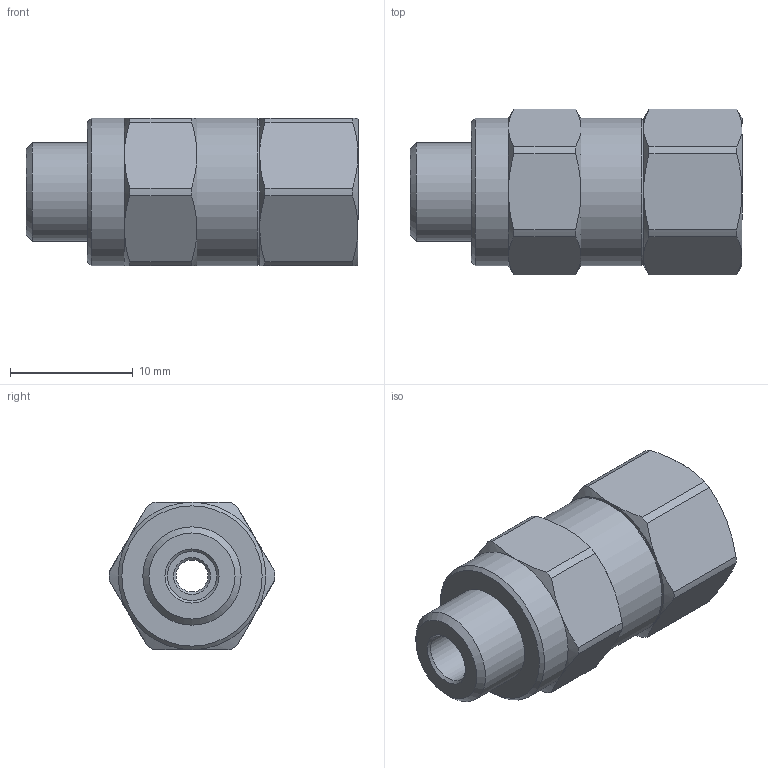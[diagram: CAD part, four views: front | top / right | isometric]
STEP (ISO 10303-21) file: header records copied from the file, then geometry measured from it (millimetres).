
FILE_DESCRIPTION(('STEP AP214'),'1');
FILE_NAME('BVP-10-A10.stp','2026-02-02T07:50:39',(' '),(' '),'Spatial InterOp 3D',' ',' ');
FILE_SCHEMA(('AUTOMOTIVE_DESIGN { 1 0 10303 214 1 1 1 1 }'));
Length unit declared in the file: millimetre
Products named in the file (1): BVP-10-A10
Bounding box: 27 x 13.5 x 12 mm (x, y, z)
Volume: 2309.1 mm3; surface area: 1780.4 mm2
Topology: 1 solids, 2 shells, 83 faces, 188 edges, 117 vertices
Faces by surface type: cone 36, plane 24, cylinder 23
Full cylindrical faces by diameter (mm): 2.6 x2, 4 x1, 4.7 x1, 7 x1, 7.75 x1, 8 x2, 8.1 x1, 12 x2
Entity records: 3468 total; most frequent: CARTESIAN_POINT 438, DIRECTION 354, ORIENTED_EDGE 306, STYLED_ITEM 229, PRESENTATION_STYLE_ASSIGNMENT 229, COLOUR_RGB 229, AXIS2_PLACEMENT_3D 165, EDGE_CURVE 153
